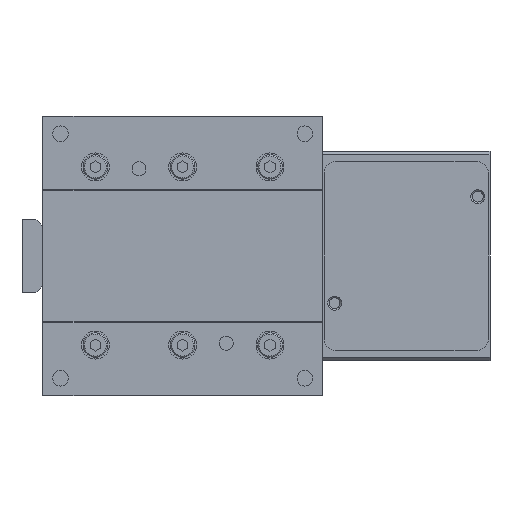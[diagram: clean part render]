
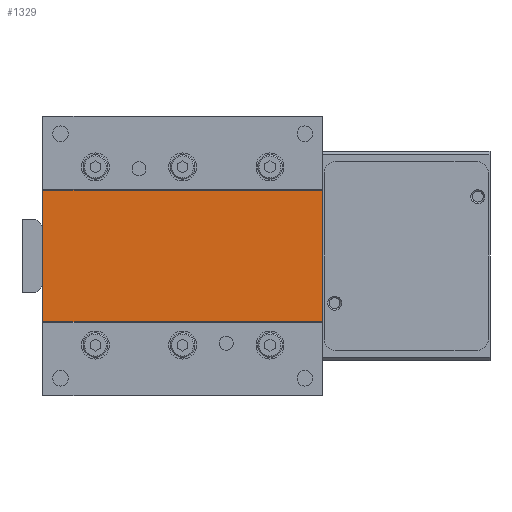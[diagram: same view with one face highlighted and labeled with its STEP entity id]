
A CAD part, front view. The second image highlights one B-rep face of the part: STEP entity #1329.
In plain terms, the highlighted planar face has unit normal (0, -1, 0).
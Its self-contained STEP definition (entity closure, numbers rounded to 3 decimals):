
#33=DIRECTION('',(-1.,0.,0.));
#34=VECTOR('',#33,37.6);
#35=CARTESIAN_POINT('',(18.8,0.25,-40.));
#36=LINE('',#35,#34);
#37=DIRECTION('',(0.,0.,-1.));
#38=VECTOR('',#37,80.);
#39=CARTESIAN_POINT('',(18.8,0.25,40.));
#40=LINE('',#39,#38);
#41=DIRECTION('',(0.,0.,-1.));
#42=VECTOR('',#41,80.);
#43=CARTESIAN_POINT('',(-18.8,0.25,40.));
#44=LINE('',#43,#42);
#292=DIRECTION('',(-1.,0.,0.));
#293=VECTOR('',#292,37.6);
#294=CARTESIAN_POINT('',(18.8,0.25,40.));
#295=LINE('',#294,#293);
#1190=CARTESIAN_POINT('',(18.8,0.25,-40.));
#1192=VERTEX_POINT('',#1190);
#1193=CARTESIAN_POINT('',(-18.8,0.25,-40.));
#1194=VERTEX_POINT('',#1193);
#1198=CARTESIAN_POINT('',(18.8,0.25,40.));
#1200=VERTEX_POINT('',#1198);
#1201=CARTESIAN_POINT('',(-18.8,0.25,40.));
#1202=VERTEX_POINT('',#1201);
#1316=CARTESIAN_POINT('',(18.8,0.25,40.));
#1317=DIRECTION('',(0.,1.,0.));
#1318=DIRECTION('',(-1.,0.,0.));
#1319=AXIS2_PLACEMENT_3D('',#1316,#1317,#1318);
#1320=PLANE('',#1319);
#1321=ORIENTED_EDGE('',*,*,#1296,.T.);
#1323=ORIENTED_EDGE('',*,*,#1322,.F.);
#1325=ORIENTED_EDGE('',*,*,#1324,.F.);
#1326=ORIENTED_EDGE('',*,*,#1307,.T.);
#1327=EDGE_LOOP('',(#1321,#1323,#1325,#1326));
#1328=FACE_OUTER_BOUND('',#1327,.F.);
#1329=ADVANCED_FACE('',(#1328),#1320,.F.);
#1296=EDGE_CURVE('',#1192,#1194,#36,.T.);
#1307=EDGE_CURVE('',#1200,#1192,#40,.T.);
#1322=EDGE_CURVE('',#1202,#1194,#44,.T.);
#1324=EDGE_CURVE('',#1200,#1202,#295,.T.);
